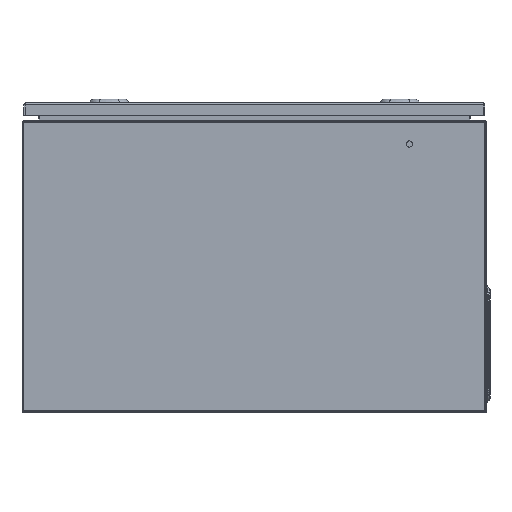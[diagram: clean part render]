
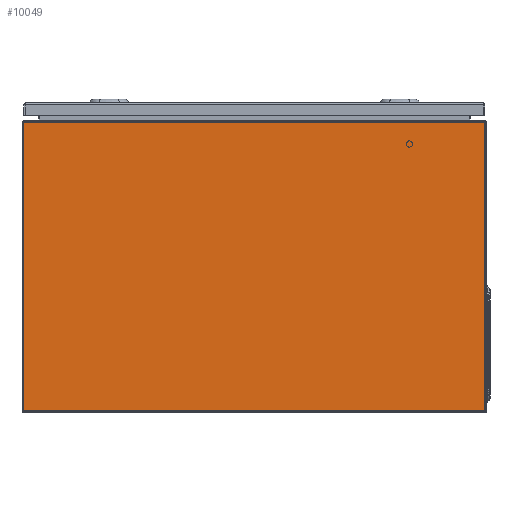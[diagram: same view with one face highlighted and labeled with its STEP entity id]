
A CAD part, left-side view. The second image highlights one B-rep face of the part: STEP entity #10049.
In plain terms, the highlighted planar face has unit normal (-1, 0, 0).
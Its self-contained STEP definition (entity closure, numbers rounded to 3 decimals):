
#994 = ORIENTED_EDGE ( 'NONE', *, *, #10374, .T. ) ;
#1531 = DIRECTION ( 'NONE',  ( 1., 0., 0. ) ) ;
#2531 = CARTESIAN_POINT ( 'NONE',  ( -300., 297.5, 2.35 ) ) ;
#3358 = VERTEX_POINT ( 'NONE', #5689 ) ;
#3426 = LINE ( 'NONE', #8989, #9456 ) ;
#3462 = PLANE ( 'NONE',  #14399 ) ;
#4092 = EDGE_CURVE ( 'NONE', #23006, #3358, #3426, .T. ) ;
#4658 = LINE ( 'NONE', #10231, #11174 ) ;
#4819 = ORIENTED_EDGE ( 'NONE', *, *, #12900, .T. ) ;
#5486 = CARTESIAN_POINT ( 'NONE',  ( -300., -300., 2.35 ) ) ;
#5689 = CARTESIAN_POINT ( 'NONE',  ( -300., -297.5, 374.5 ) ) ;
#6657 = VERTEX_POINT ( 'NONE', #2531 ) ;
#7566 = CARTESIAN_POINT ( 'NONE',  ( -300., -300., 1.5 ) ) ;
#7727 = EDGE_LOOP ( 'NONE', ( #19260, #4819, #994, #20499 ) ) ;
#8420 = DIRECTION ( 'NONE',  ( 0., 0., -1. ) ) ;
#8989 = CARTESIAN_POINT ( 'NONE',  ( -300., 300., 374.5 ) ) ;
#9456 = VECTOR ( 'NONE', #13717, 1000. ) ;
#10049 = ADVANCED_FACE ( 'NONE', ( #18369 ), #3462, .F. ) ;
#10231 = CARTESIAN_POINT ( 'NONE',  ( -300., 297.5, 1.5 ) ) ;
#10374 = EDGE_CURVE ( 'NONE', #23045, #3358, #19704, .T. ) ;
#10438 = EDGE_CURVE ( 'NONE', #23006, #6657, #4658, .T. ) ;
#11174 = VECTOR ( 'NONE', #8420, 1000. ) ;
#12413 = DIRECTION ( 'NONE',  ( 0., 0., 1. ) ) ;
#12900 = EDGE_CURVE ( 'NONE', #6657, #23045, #15109, .T. ) ;
#13717 = DIRECTION ( 'NONE',  ( 0., -1., 0. ) ) ;
#14399 = AXIS2_PLACEMENT_3D ( 'NONE', #7566, #1531, #16347 ) ;
#15109 = LINE ( 'NONE', #5486, #16210 ) ;
#15968 = CARTESIAN_POINT ( 'NONE',  ( -300., -297.5, 1.5 ) ) ;
#16210 = VECTOR ( 'NONE', #18470, 1000. ) ;
#16347 = DIRECTION ( 'NONE',  ( 0., 0., -1. ) ) ;
#18369 = FACE_OUTER_BOUND ( 'NONE', #7727, .T. ) ;
#18470 = DIRECTION ( 'NONE',  ( 0., -1., 0. ) ) ;
#18481 = CARTESIAN_POINT ( 'NONE',  ( -300., -297.5, 2.35 ) ) ;
#19260 = ORIENTED_EDGE ( 'NONE', *, *, #10438, .T. ) ;
#19704 = LINE ( 'NONE', #15968, #23297 ) ;
#20499 = ORIENTED_EDGE ( 'NONE', *, *, #4092, .F. ) ;
#23006 = VERTEX_POINT ( 'NONE', #23729 ) ;
#23045 = VERTEX_POINT ( 'NONE', #18481 ) ;
#23297 = VECTOR ( 'NONE', #12413, 1000. ) ;
#23729 = CARTESIAN_POINT ( 'NONE',  ( -300., 297.5, 374.5 ) ) ;
